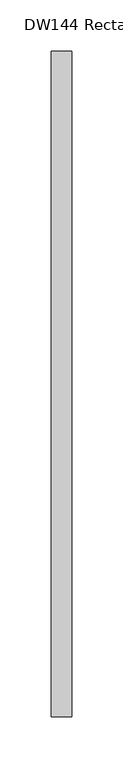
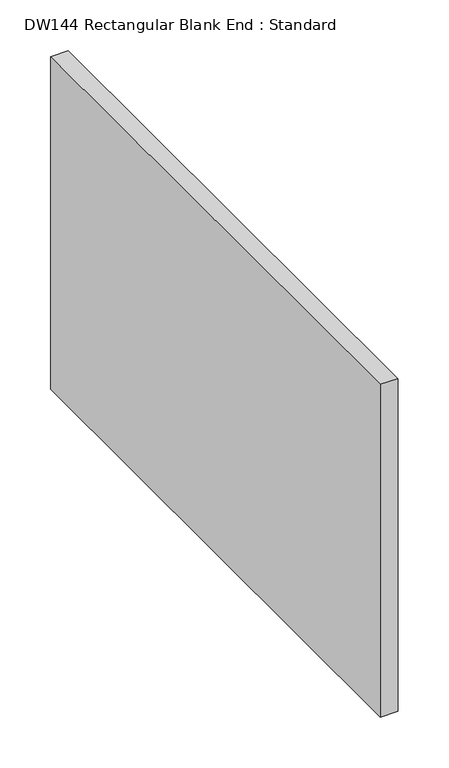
"""IFC4 building model written with IfcOpenShell, lengths in millimetres: duct fitting geometry, DW144 Rectangular Blank End : Standard."""

from ifc_helpers import new_model, si_unit, frame, origin, place, context, project, spatial, polyline, outline, extrude, source, transform, mapped, element, save


def dw144_rectangular_blank_end_standard_87489678(model_context):
    return source(origin(), model_context, "Body", "SweptSolid", [
        extrude(outline(polyline([(20.0, -325.0), (0.0, -325.0), (0.0, 325.0), (20.0, 325.0), (20.0, -325.0)])), frame((0.0, 0.0, -200.0), z_axis=(0.0, 0.0, 1.0), x_axis=(1.0, 0.0, 0.0)), (0.0, 0.0, 1.0), 400.0),
    ])


if __name__ == "__main__":
    model = new_model("IFC4")
    model_context = context("Model", 3, world=origin())
    ifc_project = project(units=[si_unit("LENGTHUNIT", "METRE", prefix="MILLI")], contexts=[model_context])
    site = spatial("IfcSite", under=ifc_project)
    building = spatial("IfcBuilding", under=site)
    placement = place(None, origin())
    dw144_rectangular_blank_end_standard_shape = dw144_rectangular_blank_end_standard_87489678(model_context)
    element("IfcDuctFitting", 1, ObjectType="DW144 Rectangular Blank End : Standard", at=placement, inside=building, context=model_context, shape_type="MappedRepresentation", body=[
        mapped(dw144_rectangular_blank_end_standard_shape, transform((0.0, 0.0, 0.0), x_axis=(1.0, 0.0, 0.0), y_axis=(0.0, 1.0, 0.0), z_axis=(0.0, 0.0, 1.0))),
    ])
    save(model, "model.ifc")
